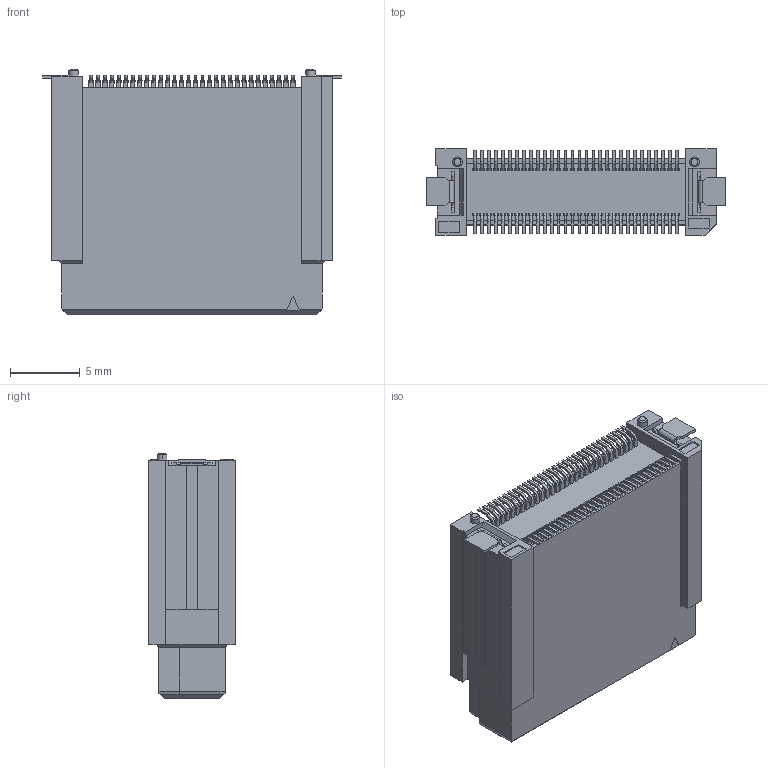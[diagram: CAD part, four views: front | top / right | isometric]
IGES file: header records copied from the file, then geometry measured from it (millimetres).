
Start section: Elysium IGES Interface
Global section: file name: 108HG:\その他\DT関連\【59期以前】\DT_CADﾃﾞｰﾀ\DT_3DCAD(客先提出用)\プラグ\-19\web用\igs\P3D464_DT11-060S-19-T.igs; native system: Creo Elements/Direct Modeling 20.4A  18-Oct-2021; preprocessor: Creo Element/Direct IGES_3D V2.2; author: Unknown; organization: Unknown; date: 20220316.111622; units: millimetre
Bounding box: 21.4 x 6.2 x 17.63 mm (x, y, z)
Volume: 1530.5 mm3; surface area: 1364.2 mm2
Topology: 1 solids, 1 shells, 1913 faces, 5378 edges, 3536 vertices
Faces by surface type: bspline 1913
